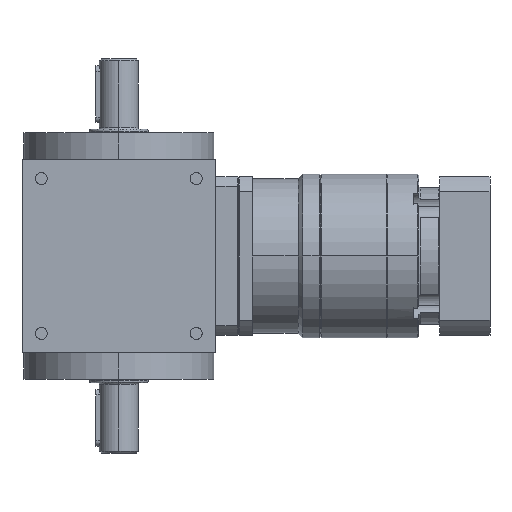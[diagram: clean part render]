
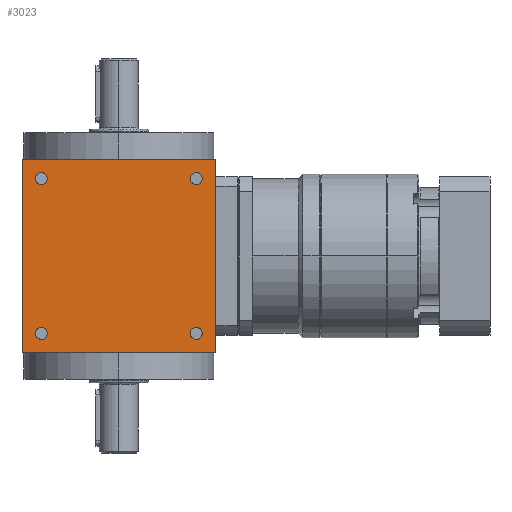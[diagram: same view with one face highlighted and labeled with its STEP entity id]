
A CAD part, left-side view. The second image highlights one B-rep face of the part: STEP entity #3023.
In plain terms, the highlighted planar face has unit normal (-1, 0, 0).
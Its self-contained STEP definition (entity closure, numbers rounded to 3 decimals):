
#545 = DIRECTION ( 'NONE',  ( 0., 0., 1. ) ) ;
#549 = CARTESIAN_POINT ( 'NONE',  ( -55., 44., 40.6 ) ) ;
#567 = DIRECTION ( 'NONE',  ( 0., 0., 1. ) ) ;
#650 = CARTESIAN_POINT ( 'NONE',  ( -55., -55., -55. ) ) ;
#764 = ORIENTED_EDGE ( 'NONE', *, *, #11509, .T. ) ;
#839 = AXIS2_PLACEMENT_3D ( 'NONE', #5907, #16206, #545 ) ;
#848 = CARTESIAN_POINT ( 'NONE',  ( -55., -44., 44. ) ) ;
#965 = VERTEX_POINT ( 'NONE', #11490 ) ;
#991 = CARTESIAN_POINT ( 'NONE',  ( -55., 44., 44. ) ) ;
#1081 = CARTESIAN_POINT ( 'NONE',  ( -55., -44., -44. ) ) ;
#1427 = VERTEX_POINT ( 'NONE', #16339 ) ;
#1642 = FACE_BOUND ( 'NONE', #5875, .T. ) ;
#1685 = CIRCLE ( 'NONE', #839, 3.4 ) ;
#1739 = VERTEX_POINT ( 'NONE', #11222 ) ;
#2254 = DIRECTION ( 'NONE',  ( 1., 0., 0. ) ) ;
#2256 = ORIENTED_EDGE ( 'NONE', *, *, #11824, .T. ) ;
#2445 = VERTEX_POINT ( 'NONE', #15256 ) ;
#2566 = EDGE_CURVE ( 'NONE', #1427, #8133, #10105, .T. ) ;
#2591 = DIRECTION ( 'NONE',  ( 1., 0., 0. ) ) ;
#2873 = DIRECTION ( 'NONE',  ( 0., 0., 1. ) ) ;
#2878 = DIRECTION ( 'NONE',  ( 0., 0., 1. ) ) ;
#2966 = DIRECTION ( 'NONE',  ( 0., 0., 1. ) ) ;
#3023 = ADVANCED_FACE ( 'NONE', ( #16164, #1642, #15984, #10765, #6813 ), #5512, .T. ) ;
#3256 = ORIENTED_EDGE ( 'NONE', *, *, #3988, .T. ) ;
#3524 = VECTOR ( 'NONE', #6018, 1000. ) ;
#3659 = VERTEX_POINT ( 'NONE', #14441 ) ;
#3686 = ORIENTED_EDGE ( 'NONE', *, *, #10100, .T. ) ;
#3988 = EDGE_CURVE ( 'NONE', #11098, #1739, #13751, .T. ) ;
#4204 = CARTESIAN_POINT ( 'NONE',  ( -55., 55., -55. ) ) ;
#4556 = VERTEX_POINT ( 'NONE', #16760 ) ;
#4672 = VECTOR ( 'NONE', #10335, 1000. ) ;
#4746 = LINE ( 'NONE', #10098, #14181 ) ;
#4781 = AXIS2_PLACEMENT_3D ( 'NONE', #4204, #14853, #2873 ) ;
#4988 = LINE ( 'NONE', #7346, #4672 ) ;
#5214 = AXIS2_PLACEMENT_3D ( 'NONE', #11202, #5781, #2878 ) ;
#5250 = EDGE_CURVE ( 'NONE', #2445, #11098, #4746, .T. ) ;
#5342 = CARTESIAN_POINT ( 'NONE',  ( -55., 55., 55. ) ) ;
#5495 = CARTESIAN_POINT ( 'NONE',  ( -55., 44., -44. ) ) ;
#5512 = PLANE ( 'NONE',  #4781 ) ;
#5781 = DIRECTION ( 'NONE',  ( 1., 0., 0. ) ) ;
#5875 = EDGE_LOOP ( 'NONE', ( #13191, #14601 ) ) ;
#5907 = CARTESIAN_POINT ( 'NONE',  ( -55., -44., 44. ) ) ;
#6018 = DIRECTION ( 'NONE',  ( 0., 0., 1. ) ) ;
#6183 = CARTESIAN_POINT ( 'NONE',  ( -55., 44., -47.4 ) ) ;
#6288 = AXIS2_PLACEMENT_3D ( 'NONE', #848, #2254, #15460 ) ;
#6460 = CARTESIAN_POINT ( 'NONE',  ( -55., -44., -47.4 ) ) ;
#6507 = EDGE_CURVE ( 'NONE', #1739, #12191, #4988, .T. ) ;
#6813 = FACE_BOUND ( 'NONE', #15731, .T. ) ;
#6941 = VERTEX_POINT ( 'NONE', #6183 ) ;
#6949 = EDGE_CURVE ( 'NONE', #12191, #2445, #11437, .T. ) ;
#7233 = CARTESIAN_POINT ( 'NONE',  ( -55., 44., -44. ) ) ;
#7346 = CARTESIAN_POINT ( 'NONE',  ( -55., 55., -55. ) ) ;
#7438 = CARTESIAN_POINT ( 'NONE',  ( -55., 55., -55. ) ) ;
#7481 = EDGE_CURVE ( 'NONE', #3659, #9312, #9408, .T. ) ;
#7551 = AXIS2_PLACEMENT_3D ( 'NONE', #1081, #12917, #13171 ) ;
#7611 = ORIENTED_EDGE ( 'NONE', *, *, #2566, .T. ) ;
#7654 = DIRECTION ( 'NONE',  ( 1., 0., 0. ) ) ;
#7693 = AXIS2_PLACEMENT_3D ( 'NONE', #991, #7654, #16825 ) ;
#7788 = VECTOR ( 'NONE', #11215, 1000. ) ;
#7946 = AXIS2_PLACEMENT_3D ( 'NONE', #5495, #2591, #12143 ) ;
#8133 = VERTEX_POINT ( 'NONE', #6460 ) ;
#8522 = CIRCLE ( 'NONE', #10196, 3.4 ) ;
#8689 = CIRCLE ( 'NONE', #14511, 3.4 ) ;
#8908 = DIRECTION ( 'NONE',  ( 1., 0., 0. ) ) ;
#8929 = ORIENTED_EDGE ( 'NONE', *, *, #5250, .T. ) ;
#9168 = ORIENTED_EDGE ( 'NONE', *, *, #7481, .T. ) ;
#9312 = VERTEX_POINT ( 'NONE', #549 ) ;
#9373 = DIRECTION ( 'NONE',  ( 1., 0., 0. ) ) ;
#9382 = CIRCLE ( 'NONE', #6288, 3.4 ) ;
#9408 = CIRCLE ( 'NONE', #5214, 3.4 ) ;
#9806 = CARTESIAN_POINT ( 'NONE',  ( -55., -44., 40.6 ) ) ;
#9983 = ORIENTED_EDGE ( 'NONE', *, *, #6507, .T. ) ;
#10098 = CARTESIAN_POINT ( 'NONE',  ( -55., 55., 55. ) ) ;
#10100 = EDGE_CURVE ( 'NONE', #4556, #6941, #8689, .T. ) ;
#10105 = CIRCLE ( 'NONE', #7551, 3.4 ) ;
#10196 = AXIS2_PLACEMENT_3D ( 'NONE', #10680, #9373, #2966 ) ;
#10335 = DIRECTION ( 'NONE',  ( 0., -1., 0. ) ) ;
#10680 = CARTESIAN_POINT ( 'NONE',  ( -55., -44., -44. ) ) ;
#10765 = FACE_BOUND ( 'NONE', #13431, .T. ) ;
#10851 = EDGE_CURVE ( 'NONE', #965, #15989, #1685, .T. ) ;
#11092 = EDGE_CURVE ( 'NONE', #8133, #1427, #8522, .T. ) ;
#11098 = VERTEX_POINT ( 'NONE', #5342 ) ;
#11202 = CARTESIAN_POINT ( 'NONE',  ( -55., 44., 44. ) ) ;
#11215 = DIRECTION ( 'NONE',  ( 0., 0., -1. ) ) ;
#11222 = CARTESIAN_POINT ( 'NONE',  ( -55., 55., -55. ) ) ;
#11437 = LINE ( 'NONE', #650, #3524 ) ;
#11490 = CARTESIAN_POINT ( 'NONE',  ( -55., -44., 47.4 ) ) ;
#11509 = EDGE_CURVE ( 'NONE', #6941, #4556, #12435, .T. ) ;
#11725 = EDGE_LOOP ( 'NONE', ( #3686, #764 ) ) ;
#11824 = EDGE_CURVE ( 'NONE', #9312, #3659, #12995, .T. ) ;
#11999 = ORIENTED_EDGE ( 'NONE', *, *, #11092, .T. ) ;
#12143 = DIRECTION ( 'NONE',  ( 0., 0., 1. ) ) ;
#12191 = VERTEX_POINT ( 'NONE', #13777 ) ;
#12435 = CIRCLE ( 'NONE', #7946, 3.4 ) ;
#12917 = DIRECTION ( 'NONE',  ( 1., 0., 0. ) ) ;
#12995 = CIRCLE ( 'NONE', #7693, 3.4 ) ;
#13171 = DIRECTION ( 'NONE',  ( 0., 0., 1. ) ) ;
#13191 = ORIENTED_EDGE ( 'NONE', *, *, #10851, .T. ) ;
#13431 = EDGE_LOOP ( 'NONE', ( #7611, #11999 ) ) ;
#13751 = LINE ( 'NONE', #7438, #7788 ) ;
#13777 = CARTESIAN_POINT ( 'NONE',  ( -55., -55., -55. ) ) ;
#14097 = DIRECTION ( 'NONE',  ( 0., 1., 0. ) ) ;
#14181 = VECTOR ( 'NONE', #14097, 1000. ) ;
#14441 = CARTESIAN_POINT ( 'NONE',  ( -55., 44., 47.4 ) ) ;
#14511 = AXIS2_PLACEMENT_3D ( 'NONE', #7233, #8908, #567 ) ;
#14601 = ORIENTED_EDGE ( 'NONE', *, *, #15949, .T. ) ;
#14790 = ORIENTED_EDGE ( 'NONE', *, *, #6949, .T. ) ;
#14853 = DIRECTION ( 'NONE',  ( -1., 0., 0. ) ) ;
#15256 = CARTESIAN_POINT ( 'NONE',  ( -55., -55., 55. ) ) ;
#15460 = DIRECTION ( 'NONE',  ( 0., 0., 1. ) ) ;
#15527 = EDGE_LOOP ( 'NONE', ( #3256, #9983, #14790, #8929 ) ) ;
#15731 = EDGE_LOOP ( 'NONE', ( #9168, #2256 ) ) ;
#15949 = EDGE_CURVE ( 'NONE', #15989, #965, #9382, .T. ) ;
#15984 = FACE_BOUND ( 'NONE', #11725, .T. ) ;
#15989 = VERTEX_POINT ( 'NONE', #9806 ) ;
#16164 = FACE_OUTER_BOUND ( 'NONE', #15527, .T. ) ;
#16206 = DIRECTION ( 'NONE',  ( 1., 0., 0. ) ) ;
#16339 = CARTESIAN_POINT ( 'NONE',  ( -55., -44., -40.6 ) ) ;
#16760 = CARTESIAN_POINT ( 'NONE',  ( -55., 44., -40.6 ) ) ;
#16825 = DIRECTION ( 'NONE',  ( 0., 0., 1. ) ) ;
